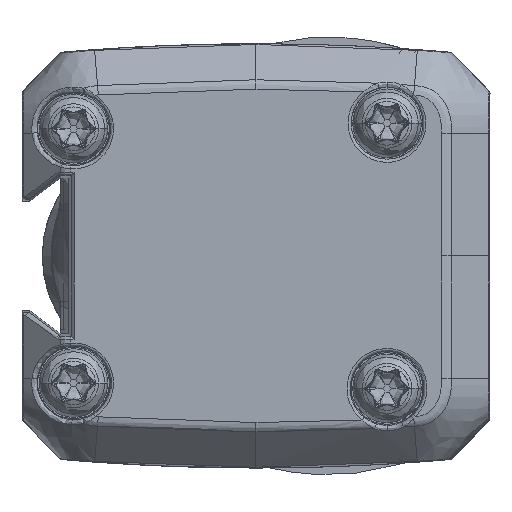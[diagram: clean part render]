
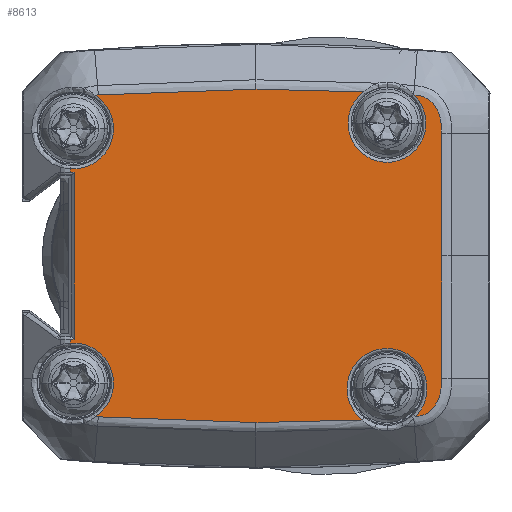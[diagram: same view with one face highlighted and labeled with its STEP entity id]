
A CAD part, left-side view. The second image highlights one B-rep face of the part: STEP entity #8613.
In plain terms, the highlighted planar face has unit normal (-1, 0, 0) as drawn and (0, 0, 1) by its records, which use the part's own axes.
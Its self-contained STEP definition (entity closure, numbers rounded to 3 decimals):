
#3858=CARTESIAN_POINT('',(-10.302,9.807,254.927));
#3874=CARTESIAN_POINT('',(7.86,-12.392,254.927));
#3875=CARTESIAN_POINT('',(8.026,-12.393,254.927));
#3876=CARTESIAN_POINT('',(8.359,-12.386,254.927));
#3877=CARTESIAN_POINT('',(8.856,-12.313,254.927));
#3878=CARTESIAN_POINT('',(9.336,-12.147,254.927));
#3879=CARTESIAN_POINT('',(9.737,-11.891,254.927));
#3880=CARTESIAN_POINT('',(10.043,-11.567,254.927));
#3881=CARTESIAN_POINT('',(10.238,-11.201,254.927));
#3882=CARTESIAN_POINT('',(10.3,-10.867,254.927));
#3883=CARTESIAN_POINT('',(10.314,-10.67,254.927));
#3884=CARTESIAN_POINT('',(10.318,-10.612,254.927));
#3886=DIRECTION('',(1.,0.,0.));
#3887=VECTOR('',#3886,7.86);
#3888=CARTESIAN_POINT('',(0.,-12.392,
254.927));
#3889=LINE('',#3888,#3887);
#3890=CARTESIAN_POINT('',(-10.311,-10.714,
254.927));
#3891=CARTESIAN_POINT('',(-10.309,-10.739,
254.927));
#3892=CARTESIAN_POINT('',(-10.293,-10.901,
254.927));
#3893=CARTESIAN_POINT('',(-10.238,-11.201,
254.927));
#3894=CARTESIAN_POINT('',(-10.043,-11.567,
254.927));
#3895=CARTESIAN_POINT('',(-9.737,-11.891,
254.927));
#3896=CARTESIAN_POINT('',(-9.336,-12.147,
254.927));
#3897=CARTESIAN_POINT('',(-8.856,-12.313,
254.927));
#3898=CARTESIAN_POINT('',(-8.359,-12.386,
254.927));
#3899=CARTESIAN_POINT('',(-8.026,-12.393,
254.927));
#3900=CARTESIAN_POINT('',(-7.86,-12.392,
254.927));
#3902=CARTESIAN_POINT('',(-10.685,-0.495,
254.927));
#3903=CARTESIAN_POINT('',(-10.685,-2.768,
254.927));
#3904=CARTESIAN_POINT('',(-10.629,-5.041,
254.927));
#3905=CARTESIAN_POINT('',(-10.518,-7.31,
254.927));
#3907=CARTESIAN_POINT('',(-10.318,9.614,254.927));
#3908=CARTESIAN_POINT('',(-10.563,6.251,254.927));
#3909=CARTESIAN_POINT('',(-10.685,2.878,254.927));
#3910=CARTESIAN_POINT('',(-10.685,-0.495,
254.927));
#3912=CARTESIAN_POINT('',(-10.302,9.807,254.927));
#3913=CARTESIAN_POINT('',(-10.303,9.804,254.927));
#3914=CARTESIAN_POINT('',(-10.31,9.739,254.927));
#3915=CARTESIAN_POINT('',(-10.314,9.675,254.927));
#3916=CARTESIAN_POINT('',(-10.318,9.614,254.927));
#3918=DIRECTION('',(1.,0.,0.));
#3919=VECTOR('',#3918,0.245);
#3920=CARTESIAN_POINT('',(-5.591,11.401,254.927));
#3921=LINE('',#3920,#3919);
#3922=DIRECTION('',(0.,-1.,0.));
#3923=VECTOR('',#3922,0.242);
#3924=CARTESIAN_POINT('',(-5.346,11.401,254.927));
#3925=LINE('',#3924,#3923);
#3926=DIRECTION('',(1.,0.,0.));
#3927=VECTOR('',#3926,10.692);
#3928=CARTESIAN_POINT('',(-5.346,11.159,254.927));
#3929=LINE('',#3928,#3927);
#3930=DIRECTION('',(0.,-1.,0.));
#3931=VECTOR('',#3930,0.242);
#3932=CARTESIAN_POINT('',(5.346,11.401,254.927));
#3933=LINE('',#3932,#3931);
#3934=DIRECTION('',(1.,0.,0.));
#3935=VECTOR('',#3934,0.245);
#3936=CARTESIAN_POINT('',(5.346,11.401,254.927));
#3937=LINE('',#3936,#3935);
#3938=CARTESIAN_POINT('',(10.318,9.614,254.927));
#3939=CARTESIAN_POINT('',(10.314,9.675,254.927));
#3940=CARTESIAN_POINT('',(10.31,9.739,254.927));
#3941=CARTESIAN_POINT('',(10.303,9.804,254.927));
#3942=CARTESIAN_POINT('',(10.302,9.807,254.927));
#3944=CARTESIAN_POINT('',(10.685,-0.495,
254.927));
#3945=CARTESIAN_POINT('',(10.685,2.878,254.927));
#3946=CARTESIAN_POINT('',(10.563,6.251,254.927));
#3947=CARTESIAN_POINT('',(10.318,9.614,254.927));
#3949=CARTESIAN_POINT('',(10.513,-7.413,254.927));
#3950=CARTESIAN_POINT('',(10.628,-5.109,254.927));
#3951=CARTESIAN_POINT('',(10.685,-2.802,254.927));
#3952=CARTESIAN_POINT('',(10.685,-0.495,
254.927));
#3959=CARTESIAN_POINT('',(8.5,-8.895,254.927));
#3960=DIRECTION('',(0.,0.,-1.));
#3961=DIRECTION('',(0.727,-0.687,0.));
#3962=AXIS2_PLACEMENT_3D('',#3959,#3960,#3961);
#3998=CARTESIAN_POINT('',(10.513,-7.413,254.927));
#4012=CARTESIAN_POINT('',(10.685,-0.495,
254.927));
#4053=CARTESIAN_POINT('',(10.302,9.807,254.927));
#4055=CARTESIAN_POINT('',(10.318,9.614,254.927));
#4071=CARTESIAN_POINT('',(8.15,11.204,254.927));
#4072=DIRECTION('',(0.,0.,-1.));
#4073=DIRECTION('',(0.839,-0.545,0.));
#4074=AXIS2_PLACEMENT_3D('',#4071,#4072,#4073);
#4097=CARTESIAN_POINT('',(-5.591,11.401,254.927));
#4105=CARTESIAN_POINT('',(-5.346,11.401,254.927));
#4107=CARTESIAN_POINT('',(5.591,11.401,254.927));
#4126=CARTESIAN_POINT('',(5.346,11.401,254.927));
#4142=CARTESIAN_POINT('',(-8.15,11.204,254.927));
#4143=DIRECTION('',(0.,0.,-1.));
#4144=DIRECTION('',(0.997,0.076,0.));
#4145=AXIS2_PLACEMENT_3D('',#4142,#4143,#4144);
#4752=CARTESIAN_POINT('',(-10.318,9.614,254.927));
#4763=CARTESIAN_POINT('',(-10.685,-0.495,
254.927));
#4790=CARTESIAN_POINT('',(-10.518,-7.31,
254.927));
#5502=CARTESIAN_POINT('',(10.318,-10.612,254.927));
#5511=CARTESIAN_POINT('',(7.86,-12.392,254.927));
#6275=CARTESIAN_POINT('',(-7.86,-12.392,
254.927));
#6282=DIRECTION('',(-1.,0.,0.));
#6283=VECTOR('',#6282,7.86);
#6284=CARTESIAN_POINT('',(0.,-12.392,
254.927));
#6285=LINE('',#6284,#6283);
#6324=CARTESIAN_POINT('',(-8.5,-8.895,
254.927));
#6325=DIRECTION('',(0.,0.,-1.));
#6326=DIRECTION('',(-0.786,0.618,0.));
#6327=AXIS2_PLACEMENT_3D('',#6324,#6325,#6326);
#6659=VERTEX_POINT('',#4012);
#6661=VERTEX_POINT('',#4055);
#6662=VERTEX_POINT('',#5511);
#6663=CARTESIAN_POINT('',(0.,-12.392,
254.927));
#6664=VERTEX_POINT('',#6663);
#6719=VERTEX_POINT('',#4763);
#6721=VERTEX_POINT('',#4752);
#6722=VERTEX_POINT('',#6275);
#6836=VERTEX_POINT('',#3998);
#6845=VERTEX_POINT('',#5502);
#6869=VERTEX_POINT('',#3890);
#6882=VERTEX_POINT('',#3858);
#6892=VERTEX_POINT('',#4097);
#6900=VERTEX_POINT('',#4107);
#6909=VERTEX_POINT('',#4053);
#6920=VERTEX_POINT('',#4790);
#6960=VERTEX_POINT('',#4105);
#6961=CARTESIAN_POINT('',(-5.346,11.159,254.927));
#6962=VERTEX_POINT('',#6961);
#6965=CARTESIAN_POINT('',(5.346,11.159,254.927));
#6966=VERTEX_POINT('',#6965);
#6977=VERTEX_POINT('',#4126);
#8569=CARTESIAN_POINT('',(-14.142,14.804,254.927));
#8570=DIRECTION('',(0.,0.,1.));
#8571=DIRECTION('',(1.,0.,0.));
#8572=AXIS2_PLACEMENT_3D('',#8569,#8570,#8571);
#8573=PLANE('',#8572);
#8575=ORIENTED_EDGE('',*,*,#8574,.F.);
#8577=ORIENTED_EDGE('',*,*,#8576,.F.);
#8579=ORIENTED_EDGE('',*,*,#8578,.F.);
#8581=ORIENTED_EDGE('',*,*,#8580,.T.);
#8583=ORIENTED_EDGE('',*,*,#8582,.F.);
#8585=ORIENTED_EDGE('',*,*,#8584,.F.);
#8587=ORIENTED_EDGE('',*,*,#8586,.F.);
#8589=ORIENTED_EDGE('',*,*,#8588,.F.);
#8590=ORIENTED_EDGE('',*,*,#8561,.F.);
#8592=ORIENTED_EDGE('',*,*,#8591,.F.);
#8594=ORIENTED_EDGE('',*,*,#8593,.T.);
#8596=ORIENTED_EDGE('',*,*,#8595,.T.);
#8598=ORIENTED_EDGE('',*,*,#8597,.T.);
#8600=ORIENTED_EDGE('',*,*,#8599,.F.);
#8602=ORIENTED_EDGE('',*,*,#8601,.T.);
#8604=ORIENTED_EDGE('',*,*,#8603,.F.);
#8606=ORIENTED_EDGE('',*,*,#8605,.F.);
#8608=ORIENTED_EDGE('',*,*,#8607,.F.);
#8610=ORIENTED_EDGE('',*,*,#8609,.F.);
#8611=EDGE_LOOP('',(#8575,#8577,#8579,#8581,#8583,#8585,#8587,#8589,#8590,#8592,
#8594,#8596,#8598,#8600,#8602,#8604,#8606,#8608,#8610));
#8612=FACE_OUTER_BOUND('',#8611,.F.);
#8613=ADVANCED_FACE('',(#8612),#8573,.T.);
#3885=B_SPLINE_CURVE_WITH_KNOTS('',3,(#3874,#3875,#3876,#3877,#3878,#3879,#3880,
#3881,#3882,#3883,#3884),.UNSPECIFIED.,.F.,.F.,(4,1,1,1,1,1,1,1,4),(0.,
0.149,0.299,0.449,0.599,
0.716,0.833,0.95,1.),.UNSPECIFIED.);
#3901=B_SPLINE_CURVE_WITH_KNOTS('',3,(#3890,#3891,#3892,#3893,#3894,#3895,#3896,
#3897,#3898,#3899,#3900),.UNSPECIFIED.,.F.,.F.,(4,1,1,1,1,1,1,1,4),(0.,
0.021,0.142,0.262,0.383,
0.537,0.692,0.847,1.),.UNSPECIFIED.);
#3906=B_SPLINE_CURVE_WITH_KNOTS('',3,(#3902,#3903,#3904,#3905),.UNSPECIFIED.,
.F.,.F.,(4,4),(0.,1.),.UNSPECIFIED.);
#3911=B_SPLINE_CURVE_WITH_KNOTS('',3,(#3907,#3908,#3909,#3910),.UNSPECIFIED.,
.F.,.F.,(4,4),(0.,1.),.UNSPECIFIED.);
#3917=B_SPLINE_CURVE_WITH_KNOTS('',3,(#3912,#3913,#3914,#3915,#3916),
.UNSPECIFIED.,.F.,.F.,(4,1,4),(0.,0.053,1.),.UNSPECIFIED.);
#3943=B_SPLINE_CURVE_WITH_KNOTS('',3,(#3938,#3939,#3940,#3941,#3942),
.UNSPECIFIED.,.F.,.F.,(4,1,4),(0.,0.947,1.),.UNSPECIFIED.);
#3948=B_SPLINE_CURVE_WITH_KNOTS('',3,(#3944,#3945,#3946,#3947),.UNSPECIFIED.,
.F.,.F.,(4,4),(0.,1.),.UNSPECIFIED.);
#3953=B_SPLINE_CURVE_WITH_KNOTS('',3,(#3949,#3950,#3951,#3952),.UNSPECIFIED.,
.F.,.F.,(4,4),(0.,1.),.UNSPECIFIED.);
#3963=CIRCLE('',#3962,2.5);
#4075=CIRCLE('',#4074,2.566);
#4146=CIRCLE('',#4145,2.566);
#6328=CIRCLE('',#6327,2.566);
#8561=EDGE_CURVE('',#6882,#6721,#3917,.T.);
#8574=EDGE_CURVE('',#6845,#6836,#3963,.T.);
#8576=EDGE_CURVE('',#6662,#6845,#3885,.T.);
#8578=EDGE_CURVE('',#6664,#6662,#3889,.T.);
#8580=EDGE_CURVE('',#6664,#6722,#6285,.T.);
#8582=EDGE_CURVE('',#6869,#6722,#3901,.T.);
#8584=EDGE_CURVE('',#6920,#6869,#6328,.T.);
#8586=EDGE_CURVE('',#6719,#6920,#3906,.T.);
#8588=EDGE_CURVE('',#6721,#6719,#3911,.T.);
#8591=EDGE_CURVE('',#6892,#6882,#4146,.T.);
#8593=EDGE_CURVE('',#6892,#6960,#3921,.T.);
#8595=EDGE_CURVE('',#6960,#6962,#3925,.T.);
#8597=EDGE_CURVE('',#6962,#6966,#3929,.T.);
#8599=EDGE_CURVE('',#6977,#6966,#3933,.T.);
#8601=EDGE_CURVE('',#6977,#6900,#3937,.T.);
#8603=EDGE_CURVE('',#6909,#6900,#4075,.T.);
#8605=EDGE_CURVE('',#6661,#6909,#3943,.T.);
#8607=EDGE_CURVE('',#6659,#6661,#3948,.T.);
#8609=EDGE_CURVE('',#6836,#6659,#3953,.T.);
